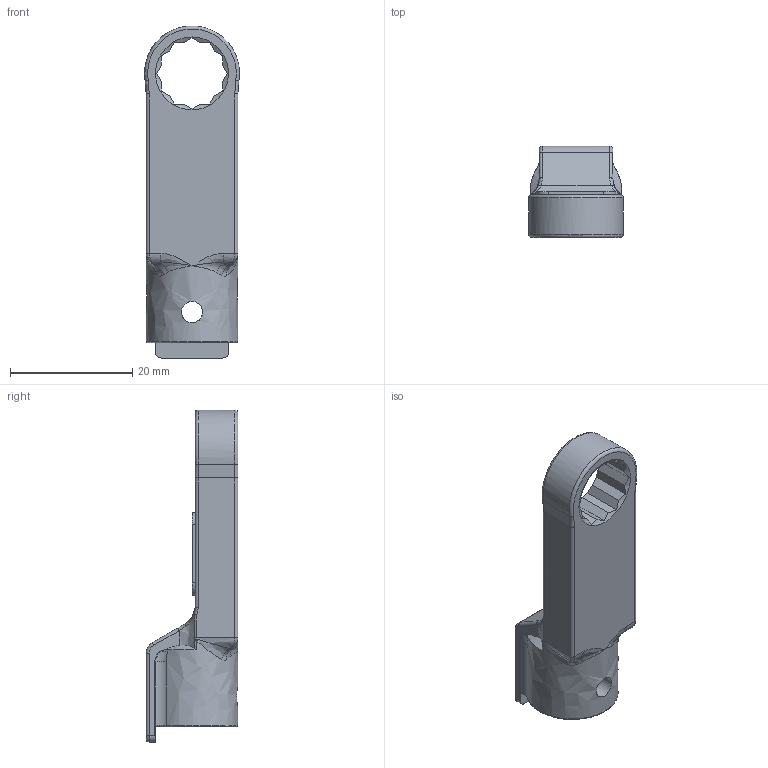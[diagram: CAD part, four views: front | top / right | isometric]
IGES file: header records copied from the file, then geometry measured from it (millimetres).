
Global section: file name: RH10DX10; native system: Autodesk Inventor 2016; preprocessor: unknown; author: Q600; date: 20151110.155609; units: millimetre
Bounding box: 15.5 x 15 x 54.25 mm (x, y, z)
Volume: 4982.8 mm3; surface area: 3387 mm2
Topology: 1 solids, 1 shells, 133 faces, 351 edges, 211 vertices
Faces by surface type: bspline 133
